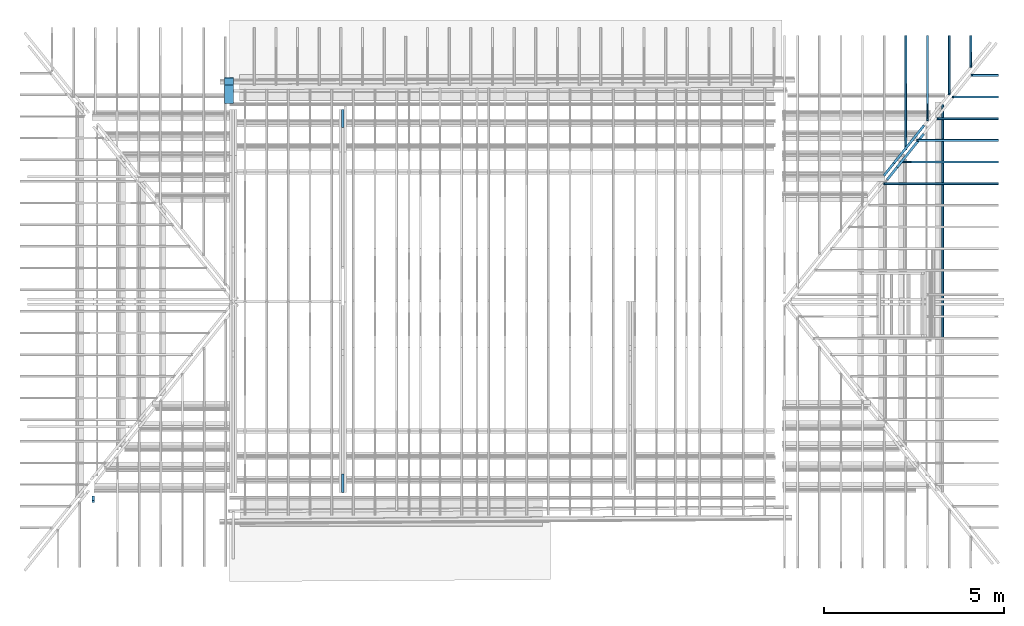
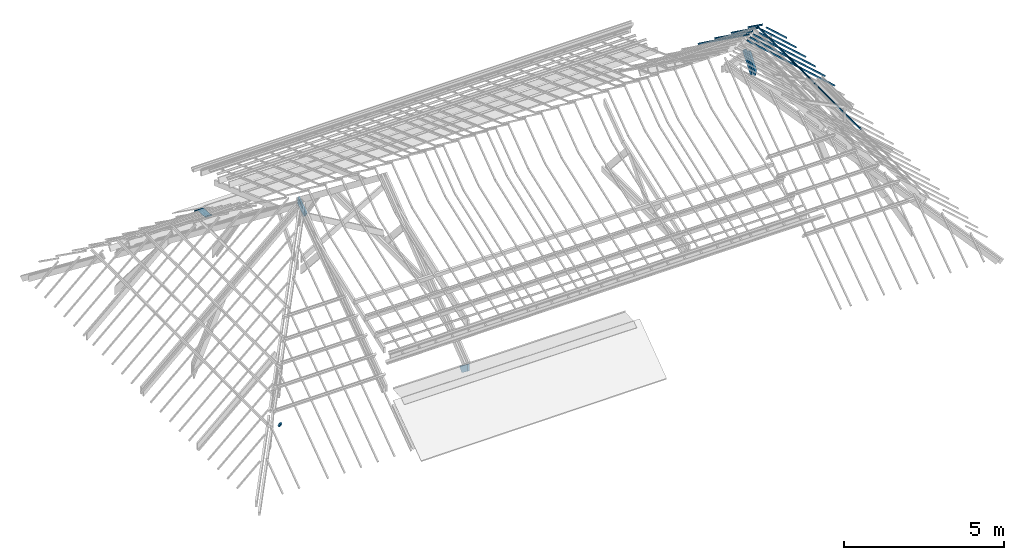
# One storey, part 16 of 18: 17 beams.
"""IFC2X3 building model written with IfcOpenShell, lengths in centimetres."""

from ifc_helpers import new_model, entity, si_unit, converted_unit, direction, frame, frame_2d, origin, place, context, subcontext, project, spatial, polyline, circle_curve, parameter, trimmed, segment, composite_curve, rectangle, outline, extrude, clip, halfspace, material, type_object, element, save


model = new_model("IFC2X3")

# Units and contexts
model_context = context("Model", 3, precision=0.001, world=frame((0.0, 0.0, 13090.0)), true_north=direction((6.123233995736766e-17, 1.0)))
body_context = subcontext(model_context, "Body", "Model", "MODEL_VIEW")
ifc_project = project(units=[si_unit("LENGTHUNIT", "METRE", prefix="CENTI"), si_unit("AREAUNIT", "SQUARE_METRE"), si_unit("VOLUMEUNIT", "CUBIC_METRE"), converted_unit("PLANEANGLEUNIT", "DEGREE", entity("IfcPlaneAngleMeasure", 0.017453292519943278), si_unit("PLANEANGLEUNIT", "RADIAN"), dimensions=[0, 0, 0, 0, 0, 0, 0])], contexts=[model_context])

# Site, building, storey
site_placement = place(None, origin())
site = spatial("IfcSite", under=ifc_project, at=site_placement, Name="Default", CompositionType="ELEMENT")
building_placement = place(site_placement, origin())
building = spatial("IfcBuilding", under=site, at=building_placement, Name="e 39 logements et 22 maisons relais", CompositionType="ELEMENT")
storey_placement = place(building_placement, frame((0.0, 0.0, 610.0)))
storey = spatial("IfcBuildingStorey", under=building, at=storey_placement, Name="R+2", CompositionType="ELEMENT", Elevation=609.9999999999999)

# Beams
ifc_material_1 = material(Name="Bois - Bois de construction de dimensions courantes")
beam_type_1 = type_object("IfcBeamType", Name="Poutre - Bois de construction de dimensions courantes:70 220", PredefinedType="BEAM")
beam_1_placement = place(storey_placement, frame((-609.281970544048, 174.8538182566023, -395.57286725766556), z_axis=(0.0, -0.5644090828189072, 0.8254952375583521), x_axis=(0.0, 0.8254952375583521, 0.5644090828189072)))
element("IfcBeam", 1, at=beam_1_placement, inside=storey, type_object=beam_type_1, material=ifc_material_1, Name="Poutre - Bois de construction de dimensions courantes:70 220", ObjectType="Poutre - Bois de construction de dimensions courantes:70 220", context=body_context, shape_type="Clipping", body=[
    clip(extrude(rectangle(XDim=22.00000000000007, YDim=7.000000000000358, at=frame_2d((-3.8191672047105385e-14, 5.417888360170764e-14), x_axis=(1.0, 0.0))), frame((345.0787748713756, 0.0, -11.0), z_axis=(1.0, 0.0, 0.0), x_axis=(0.0, 0.0, -1.0)), (0.0, 0.0, 1.0), 60.76009877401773), halfspace(frame((410.8408400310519, -407.26702300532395, 7.315791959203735), z_axis=(0.8254952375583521, 0.0, -0.5644090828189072), x_axis=(0.0, 1.0, 0.0)), False)),
])
beam_2_placement = place(storey_placement, frame((-609.2819705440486, -224.75391741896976, -404.8766381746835), z_axis=(0.0, 0.5980962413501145, 0.8014242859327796), x_axis=(0.0, -0.8014242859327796, 0.5980962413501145)))
element("IfcBeam", 2, at=beam_2_placement, inside=storey, type_object=beam_type_1, material=ifc_material_1, Name="Poutre - Bois de construction de dimensions courantes:70 220", ObjectType="Poutre - Bois de construction de dimensions courantes:70 220", context=body_context, shape_type="Clipping", body=[
    clip(extrude(rectangle(XDim=22.000000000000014, YDim=7.00000000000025, at=frame_2d((5.417888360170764e-14, -4.3520742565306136e-14), x_axis=(0.0, 1.0))), frame((344.5543781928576, 0.0, -11.0), z_axis=(1.0, 0.0, 0.0), x_axis=(0.0, 1.0, 0.0)), (0.0, 0.0, 1.0), 62.71264481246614), halfspace(frame((412.16836270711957, -407.26702300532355, 6.408135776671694), z_axis=(0.8014242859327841, 0.0, -0.5980962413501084), x_axis=(0.0, 1.0, 0.0)), False)),
])
beam_3_placement = place(storey_placement, frame((-570.9302602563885, -576.4640877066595, -130.390887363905), z_axis=(0.0, 0.0, 1.0), x_axis=(-1.0, 0.0, 0.0)))
element("IfcBeam", 3, at=beam_3_placement, inside=storey, type_object=beam_type_1, material=ifc_material_1, Name="Poutre - Bois de construction de dimensions courantes:70 220", ObjectType="Poutre - Bois de construction de dimensions courantes:70 220", context=body_context, shape_type="SweptSolid", body=[
    extrude(rectangle(XDim=22.00000000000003, YDim=7.000000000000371, at=frame_2d((-2.7977620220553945e-14, -5.3290705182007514e-14), x_axis=(0.0, 1.0))), frame((726.5657698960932, -6.387732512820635, -8.955270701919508), z_axis=(1.0, 0.0, 0.0), x_axis=(0.0, -0.8141155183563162, 0.5807029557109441)), (0.0, 0.0, 1.0), 6.234676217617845),
])
beam_type_2 = type_object("IfcBeamType", Name="Poutre - Bois de construction de dimensions courantes:70 200", PredefinedType="BEAM")
beam_4_placement = place(storey_placement, frame((1002.367684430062, 467.1851252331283, -86.81401463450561), z_axis=(0.9217856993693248, -0.20375373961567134, 0.3298416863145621), x_axis=(-0.38769978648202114, -0.4844399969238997, 0.7842236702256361)))
element("IfcBeam", 4, at=beam_4_placement, inside=storey, type_object=beam_type_2, material=ifc_material_1, Name="Poutre - Bois de construction de dimensions courantes:70 200", ObjectType="Poutre - Bois de construction de dimensions courantes:70 200", context=body_context, shape_type="Clipping", body=[
    clip(extrude(rectangle(XDim=19.99999999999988, YDim=7.000000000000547, at=frame_2d((3.4638958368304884e-14, 1.687538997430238e-14), x_axis=(1.0, 0.0))), frame((-99.9735591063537, 77.92401202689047, -48.90652665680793), z_axis=(1.0, 0.0, 0.0), x_axis=(0.0, -0.8470001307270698, 0.5315926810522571)), (0.0, 0.0, 1.0), 261.6766974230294), halfspace(frame((73.50824959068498, -187.49302549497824, -419.4108331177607), z_axis=(0.3943864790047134, -0.7783462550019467, 0.48850426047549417), x_axis=(0.0, 0.5315926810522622, 0.8470001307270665)), False)),
])
beam_5_placement = place(storey_placement, frame((1003.771399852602, 446.53337453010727, -76.71497218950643), z_axis=(0.9252385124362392, -0.19438072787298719, 0.32580642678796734), x_axis=(-0.3793859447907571, -0.47405165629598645, 0.7945699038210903)))
element("IfcBeam", 5, at=beam_5_placement, inside=storey, type_object=beam_type_2, material=ifc_material_1, Name="Poutre - Bois de construction de dimensions courantes:70 200", ObjectType="Poutre - Bois de construction de dimensions courantes:70 200", context=body_context, shape_type="Clipping", body=[
    clip(extrude(rectangle(XDim=20.00000000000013, YDim=7.000000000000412, at=frame_2d((-1.687538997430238e-14, -1.687538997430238e-14), x_axis=(1.0, 0.0))), frame((-97.48776100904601, 77.63321452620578, -49.36683099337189), z_axis=(1.0, 0.0, 0.0), x_axis=(0.0, -0.8438392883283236, 0.5365959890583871)), (0.0, 0.0, 1.0), 241.86973076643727), halfspace(frame((53.9592487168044, -176.44640315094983, -395.2422263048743), z_axis=(0.3943864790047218, -0.7754416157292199, 0.4931020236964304), x_axis=(0.0, 0.5365959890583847, 0.843839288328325)), False)),
])
ifc_material_2 = material(Name="neuf")
beam_type_3 = type_object("IfcBeamType", Name="panne z:panne z", PredefinedType="BEAM")
beam_6_placement = place(storey_placement, frame((1065.0522097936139, 514.0076677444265, -92.10594178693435), z_axis=(0.0, 0.0, 1.0), x_axis=(0.0, -1.0, 0.0)))
element("IfcBeam", 6, at=beam_6_placement, inside=storey, type_object=beam_type_3, material=ifc_material_2, Name="panne z:panne z", ObjectType="panne z:panne z", context=body_context, shape_type="SweptSolid", body=[
    extrude(outline(composite_curve([segment(polyline([(0.3000000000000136, -3.0), (4.600000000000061, -3.0)]), True, "CONTINUOUS"), segment(trimmed(circle_curve(frame_2d((4.600000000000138, -2.600000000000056), x_axis=(0.0, -1.0)), 0.3999999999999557), [parameter(0.0)], [parameter(90.0000000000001)], True, "PARAMETER"), True, "CONTINUOUS"), segment(polyline([(5.0, -2.6000000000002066), (5.0, -1.0)]), True, "CONTINUOUS"), segment(polyline([(5.0, -1.0), (4.800000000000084, -1.0)]), True, "CONTINUOUS"), segment(polyline([(4.800000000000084, -1.0), (4.800000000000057, -2.599999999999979)]), True, "CONTINUOUS"), segment(trimmed(circle_curve(frame_2d((4.600000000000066, -2.5999999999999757), x_axis=(1.0, 0.0)), 0.20000000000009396), [parameter(270.0000000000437)], [parameter(0.0)], True, "PARAMETER"), False, "CONTINUOUS"), segment(polyline([(4.599999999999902, -2.8000000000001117), (0.2999999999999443, -2.7999999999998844)]), True, "CONTINUOUS"), segment(trimmed(circle_curve(frame_2d((0.2999999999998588, -2.600000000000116), x_axis=(0.0, -1.0)), 0.19999999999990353), [parameter(269.9999999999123)], [parameter(0.0)], True, "PARAMETER"), False, "CONTINUOUS"), segment(polyline([(0.10000000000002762, -2.5999999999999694), (0.10000000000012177, 2.6000000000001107)]), True, "CONTINUOUS"), segment(trimmed(circle_curve(frame_2d((-0.29999999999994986, 2.599999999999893), x_axis=(1.0, 0.0)), 0.4000000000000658), [parameter(0.0)], [parameter(89.99999999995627)], True, "PARAMETER"), True, "CONTINUOUS"), segment(polyline([(-0.29999999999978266, 3.0), (-4.599999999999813, 3.0)]), True, "CONTINUOUS"), segment(trimmed(circle_curve(frame_2d((-4.5999999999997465, 2.600000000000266), x_axis=(0.0, 1.0)), 0.3999999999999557), [parameter(0.0)], [parameter(90.0000000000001)], True, "PARAMETER"), True, "CONTINUOUS"), segment(polyline([(-5.0, 2.6000000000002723), (-5.0, 1.0)]), True, "CONTINUOUS"), segment(polyline([(-5.0, 1.0), (-4.799999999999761, 1.0)]), True, "CONTINUOUS"), segment(polyline([(-4.7999999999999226, 1.0), (-4.799999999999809, 2.6000000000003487)]), True, "CONTINUOUS"), segment(trimmed(circle_curve(frame_2d((-4.599999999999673, 2.6000000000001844), x_axis=(-1.0, 0.0)), 0.20000000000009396), [parameter(270.0000000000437)], [parameter(0.0)], True, "PARAMETER"), False, "CONTINUOUS"), segment(polyline([(-4.599999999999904, 2.800000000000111), (-0.29999999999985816, 2.80000000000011)]), True, "CONTINUOUS"), segment(trimmed(circle_curve(frame_2d((-0.2999999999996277, 2.6000000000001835), x_axis=(0.0, 1.0)), 0.19999999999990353), [parameter(269.9999999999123)], [parameter(0.0)], True, "PARAMETER"), False, "CONTINUOUS"), segment(polyline([(-0.0999999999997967, 2.600000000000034), (-0.10000000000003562, -2.599999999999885)]), True, "CONTINUOUS"), segment(trimmed(circle_curve(frame_2d((0.3000000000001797, -2.5999999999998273), x_axis=(-1.0, 0.0)), 0.4000000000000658), [parameter(0.0)], [parameter(89.99999999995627)], True, "PARAMETER"), True, "CONTINUOUS")], self_intersect=False)), frame((-8.71859015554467, -12.50098828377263, -13.883754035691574), z_axis=(1.0, 0.0, 0.0), x_axis=(0.0, -0.743144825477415, 0.6691306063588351)), (0.0, 0.0, 1.0), 647.1352052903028),
])
beam_type_4 = type_object("IfcBeamType", Name="Poutre - Bois de construction de dimensions courantes:50 50", PredefinedType="BEAM")
beam_7_placement = place(storey_placement, frame((1106.439839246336, 304.091052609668, -51.09700593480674), z_axis=(0.6675793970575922, 0.0, 0.7445386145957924), x_axis=(-0.7445386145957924, 0.0, 0.6675793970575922)))
element("IfcBeam", 7, at=beam_7_placement, inside=storey, type_object=beam_type_4, material=ifc_material_1, Name="Poutre - Bois de construction de dimensions courantes:50 50", ObjectType="Poutre - Bois de construction de dimensions courantes:50 50", context=body_context, shape_type="SweptSolid", body=[
    extrude(rectangle(XDim=5.000000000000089, YDim=5.000000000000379, at=frame_2d((1.3300471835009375e-13, 2.708944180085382e-14), x_axis=(1.0, 0.0))), frame((-208.06330346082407, 0.0, -84.50000000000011), z_axis=(1.0, 0.0, 0.0), x_axis=(0.0, 0.0, -1.0)), (0.0, 0.0, 1.0), 422.6757892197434),
])
beam_8_placement = place(storey_placement, frame((1106.439839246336, 364.091052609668, -51.09700593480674), z_axis=(0.6675793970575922, 0.0, 0.7445386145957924), x_axis=(-0.7445386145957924, 0.0, 0.6675793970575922)))
element("IfcBeam", 8, at=beam_8_placement, inside=storey, type_object=beam_type_4, material=ifc_material_1, Name="Poutre - Bois de construction de dimensions courantes:50 50", ObjectType="Poutre - Bois de construction de dimensions courantes:50 50", context=body_context, shape_type="SweptSolid", body=[
    extrude(rectangle(XDim=5.000000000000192, YDim=5.000000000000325, at=frame_2d((1.9984014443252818e-14, 0.0), x_axis=(1.0, 0.0))), frame((-208.06330346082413, 0.0, -84.50000000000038), z_axis=(1.0, 0.0, 0.0), x_axis=(0.0, 0.0, -1.0)), (0.0, 0.0, 1.0), 361.9708922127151),
])
beam_9_placement = place(storey_placement, frame((1106.439839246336, 424.091052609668, -51.09700593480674), z_axis=(0.6675793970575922, 0.0, 0.7445386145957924), x_axis=(-0.7445386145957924, 0.0, 0.6675793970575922)))
element("IfcBeam", 9, at=beam_9_placement, inside=storey, type_object=beam_type_4, material=ifc_material_1, Name="Poutre - Bois de construction de dimensions courantes:50 50", ObjectType="Poutre - Bois de construction de dimensions courantes:50 50", context=body_context, shape_type="SweptSolid", body=[
    extrude(rectangle(XDim=4.999999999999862, YDim=5.000000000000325, at=frame_2d((1.127986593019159e-13, 0.0), x_axis=(1.0, 0.0))), frame((-208.0633034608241, 0.0, -84.50000000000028), z_axis=(1.0, 0.0, 0.0), x_axis=(0.0, 0.0, -1.0)), (0.0, 0.0, 1.0), 299.20466450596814),
])
beam_10_placement = place(storey_placement, frame((1106.439839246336, 484.091052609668, -51.09700593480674), z_axis=(0.6675793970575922, 0.0, 0.7445386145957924), x_axis=(-0.7445386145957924, 0.0, 0.6675793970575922)))
element("IfcBeam", 10, at=beam_10_placement, inside=storey, type_object=beam_type_4, material=ifc_material_1, Name="Poutre - Bois de construction de dimensions courantes:50 50", ObjectType="Poutre - Bois de construction de dimensions courantes:50 50", context=body_context, shape_type="SweptSolid", body=[
    extrude(rectangle(XDim=5.000000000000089, YDim=5.000000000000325, at=frame_2d((1.127986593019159e-13, 0.0), x_axis=(1.0, 0.0))), frame((-208.06330346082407, 0.0, -84.50000000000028), z_axis=(1.0, 0.0, 0.0), x_axis=(0.0, 0.0, -1.0)), (0.0, 0.0, 1.0), 223.68051877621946),
])
beam_11_placement = place(storey_placement, frame((1106.439839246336, 544.0910526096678, -51.09700593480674), z_axis=(0.6675793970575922, 0.0, 0.7445386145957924), x_axis=(-0.7445386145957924, 0.0, 0.6675793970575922)))
element("IfcBeam", 11, at=beam_11_placement, inside=storey, type_object=beam_type_4, material=ifc_material_1, Name="Poutre - Bois de construction de dimensions courantes:50 50", ObjectType="Poutre - Bois de construction de dimensions courantes:50 50", context=body_context, shape_type="SweptSolid", body=[
    extrude(rectangle(XDim=5.000000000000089, YDim=5.000000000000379, at=frame_2d((1.5298873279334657e-13, -1.0835776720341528e-13), x_axis=(1.0, 0.0))), frame((-208.06330346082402, 0.0, -84.50000000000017), z_axis=(1.0, 0.0, 0.0), x_axis=(0.0, 0.0, -1.0)), (0.0, 0.0, 1.0), 167.1909138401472),
])
beam_12_placement = place(storey_placement, frame((1106.439839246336, 604.0910526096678, -51.09700593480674), z_axis=(0.6675793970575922, 0.0, 0.7445386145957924), x_axis=(-0.7445386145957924, 0.0, 0.6675793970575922)))
element("IfcBeam", 12, at=beam_12_placement, inside=storey, type_object=beam_type_4, material=ifc_material_1, Name="Poutre - Bois de construction de dimensions courantes:50 50", ObjectType="Poutre - Bois de construction de dimensions courantes:50 50", context=body_context, shape_type="SweptSolid", body=[
    extrude(rectangle(XDim=5.000000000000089, YDim=5.000000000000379, at=frame_2d((1.5276668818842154e-13, -5.417888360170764e-14), x_axis=(1.0, 0.0))), frame((-208.06330346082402, 0.0, -84.50000000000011), z_axis=(1.0, 0.0, 0.0), x_axis=(0.0, 0.0, -1.0)), (0.0, 0.0, 1.0), 96.57890767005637),
])
beam_13_placement = place(storey_placement, frame((950.5865180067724, 597.2297519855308, -81.5432023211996), z_axis=(0.0, 0.5855022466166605, 0.8106707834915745), x_axis=(0.0, -0.8106707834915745, 0.5855022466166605)))
element("IfcBeam", 13, at=beam_13_placement, inside=storey, type_object=beam_type_4, material=ifc_material_1, Name="Poutre - Bois de construction de dimensions courantes:50 50", ObjectType="Poutre - Bois de construction de dimensions courantes:50 50", context=body_context, shape_type="SweptSolid", body=[
    extrude(rectangle(XDim=5.000000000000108, YDim=5.000000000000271, at=frame_2d((4.374278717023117e-14, 1.6253665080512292e-13), x_axis=(1.0, 0.0))), frame((-193.8321726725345, 0.0, -71.50000000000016), z_axis=(1.0, 0.0, 0.0), x_axis=(0.0, 0.0, -1.0)), (0.0, 0.0, 1.0), 386.09816484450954),
])
beam_14_placement = place(storey_placement, frame((1010.5865180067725, 597.2297519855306, -81.5432023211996), z_axis=(0.0, 0.5855022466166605, 0.8106707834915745), x_axis=(0.0, -0.8106707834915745, 0.5855022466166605)))
element("IfcBeam", 14, at=beam_14_placement, inside=storey, type_object=beam_type_4, material=ifc_material_1, Name="Poutre - Bois de construction de dimensions courantes:50 50", ObjectType="Poutre - Bois de construction de dimensions courantes:50 50", context=body_context, shape_type="SweptSolid", body=[
    extrude(rectangle(XDim=5.000000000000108, YDim=5.000000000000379, at=frame_2d((0.0, 1.0835776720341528e-13), x_axis=(1.0, 0.0))), frame((-193.8321726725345, 0.0, -71.5000000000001), z_axis=(1.0, 0.0, 0.0), x_axis=(0.0, 0.0, -1.0)), (0.0, 0.0, 1.0), 286.13480687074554),
])
beam_15_placement = place(storey_placement, frame((1070.5865180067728, 597.2297519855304, -81.5432023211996), z_axis=(0.0, 0.5855022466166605, 0.8106707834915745), x_axis=(0.0, -0.8106707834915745, 0.5855022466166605)))
element("IfcBeam", 15, at=beam_15_placement, inside=storey, type_object=beam_type_4, material=ifc_material_1, Name="Poutre - Bois de construction de dimensions courantes:50 50", ObjectType="Poutre - Bois de construction de dimensions courantes:50 50", context=body_context, shape_type="SweptSolid", body=[
    extrude(rectangle(XDim=5.000000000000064, YDim=5.000000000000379, at=frame_2d((-2.19824158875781e-14, 1.0835776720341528e-13), x_axis=(1.0, 0.0))), frame((-193.83217267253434, 0.0, -71.50000000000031), z_axis=(1.0, 0.0, 0.0), x_axis=(0.0, 0.0, -1.0)), (0.0, 0.0, 1.0), 198.22474672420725),
])
beam_16_placement = place(storey_placement, frame((1130.586518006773, 597.2297519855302, -81.5432023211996), z_axis=(0.0, 0.5855022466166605, 0.8106707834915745), x_axis=(0.0, -0.8106707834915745, 0.5855022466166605)))
element("IfcBeam", 16, at=beam_16_placement, inside=storey, type_object=beam_type_4, material=ifc_material_1, Name="Poutre - Bois de construction de dimensions courantes:50 50", ObjectType="Poutre - Bois de construction de dimensions courantes:50 50", context=body_context, shape_type="SweptSolid", body=[
    extrude(rectangle(XDim=5.0000000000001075, YDim=5.000000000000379, at=frame_2d((-2.1760371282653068e-14, -1.0835776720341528e-13), x_axis=(1.0, 0.0))), frame((-193.83217267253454, 0.0, -71.5000000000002), z_axis=(1.0, 0.0, 0.0), x_axis=(0.0, 0.0, -1.0)), (0.0, 0.0, 1.0), 104.5500924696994),
])
beam_type_5 = type_object("IfcBeamType", Name="tpg appui de baie:tpg appui de baie", PredefinedType="BEAM")
beam_17_placement = place(storey_placement, frame((-570.930260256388, 525.9506401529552, -136.74152482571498), z_axis=(0.0, 0.0, 1.0), x_axis=(-1.0, 0.0, 0.0)))
element("IfcBeam", 17, at=beam_17_placement, inside=storey, type_object=beam_type_5, material=ifc_material_2, Name="tpg appui de baie:tpg appui de baie", ObjectType="tpg appui de baie:tpg appui de baie", context=body_context, shape_type="SweptSolid", body=[
    extrude(outline(polyline([(6.789490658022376, -39.303049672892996), (12.410971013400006, -39.303049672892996), (12.410971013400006, -39.10304967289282), (6.9793990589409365, -39.10304967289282), (4.2743682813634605, 13.118986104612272), (-9.22295272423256, 32.27399972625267), (-14.17080574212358, 33.235764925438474), (-14.208967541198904, 33.03943948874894), (-9.34009671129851, 32.09302687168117), (4.077622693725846, 13.050981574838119), (6.789490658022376, -39.303049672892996)])), frame((341.687578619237, -39.05077223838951, -12.039398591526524), z_axis=(1.0, 0.0, 0.0), x_axis=(0.0, 0.0, 1.0)), (0.0, 0.0, 1.0), 24.211615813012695),
])

save(model, "model.ifc")
